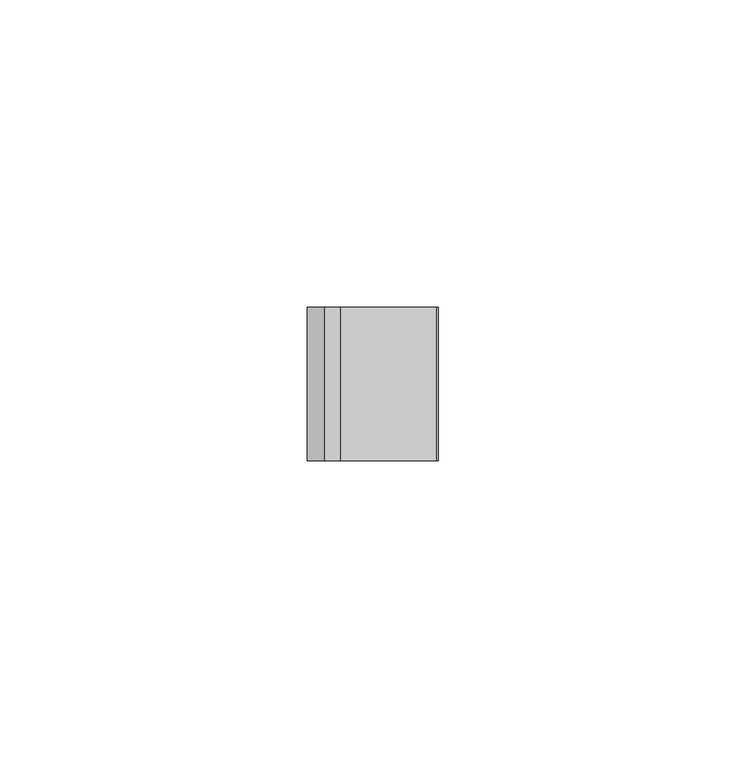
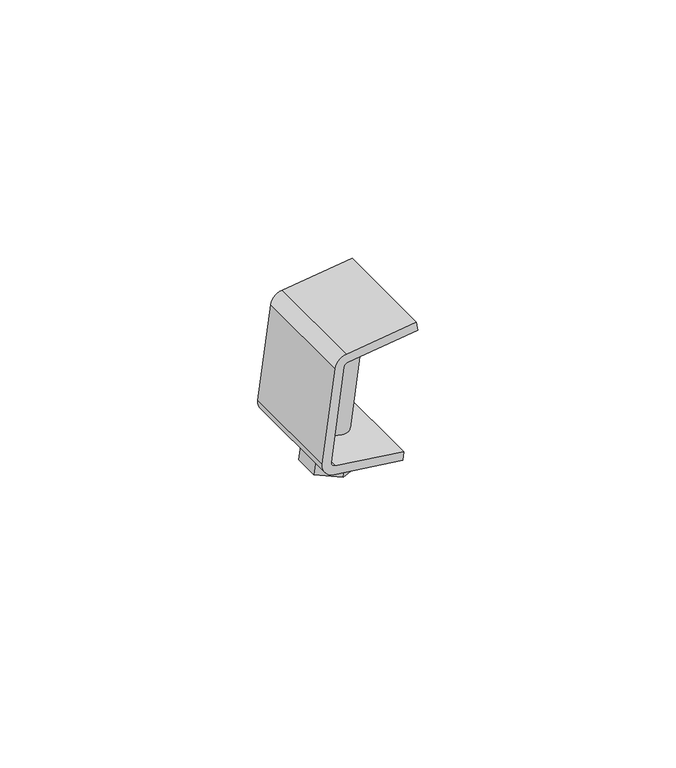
"""IFC4 building model written with IfcOpenShell, lengths in millimetres: proxy geometry, Cable_Ladder_CoverRetainer_PT2AI_Basortrav : Basortrav PT2AI."""

from ifc_helpers import new_model, si_unit, point, frame, frame_2d, origin, place, context, project, spatial, polyline, circle_curve, trimmed, segment, composite_curve, outline, extrude, source, transform, mapped, element, save


def generic_models_0f8e1dab(model_context):
    return source(origin(), model_context, "Body", "SweptSolid", [
        extrude(outline(composite_curve([segment(trimmed(circle_curve(frame_2d((-22.4736268, -1.9500801)), 1.0), [point((-23.4650717, -2.0806063))], [point((-22.3431007, -2.941525))], True, "CARTESIAN"), True, "CONTINUOUS"), segment(polyline([(-22.3431007, -2.941525), (-0.7607624, -0.1001563)]), True, "CONTINUOUS"), segment(trimmed(circle_curve(frame_2d((-0.8912886, 0.8912886)), 1.0), [point((-0.7607624, -0.1001563))], [point((0.1001563, 0.7607624))], True, "CARTESIAN"), True, "CONTINUOUS"), segment(polyline([(0.1001563, 0.7607624), (2.1597071, 16.4046039), (4.1425968, 16.1435515), (2.083046, 0.49971)]), True, "CONTINUOUS"), segment(trimmed(circle_curve(frame_2d((-0.8912886, 0.8912886)), 3.0), [point((2.083046, 0.49971))], [point((-0.49971, -2.083046))], False, "CARTESIAN"), True, "CONTINUOUS"), segment(polyline([(-0.49971, -2.083046), (-22.0820483, -4.9244147)]), True, "CONTINUOUS"), segment(trimmed(circle_curve(frame_2d((-22.4736268, -1.9500801)), 3.0), [point((-22.0820483, -4.9244147))], [point((-25.4479614, -2.3416587))], False, "CARTESIAN"), True, "CONTINUOUS"), segment(polyline([(-25.4479614, -2.3416587), (-27.4711174, 13.0257366), (-25.4882277, 13.286789), (-23.4650717, -2.0806063)]), True, "CONTINUOUS")], self_intersect=False)), frame((0.0, -25.0, 0.0), z_axis=(0.0, 1.0, 0.0), x_axis=(0.0, 0.0, 1.0)), (0.0, 0.0, 1.0), 25.0),
        extrude(outline(polyline([(0.0, 0.0), (2.8867514, -5.0000001), (1e-07, -10.0), (-5.7735027, -10.0), (-8.660254, -5.0), (-5.7735027, -1e-07), (0.0, 0.0)])), frame((3.6740137, -18.2735027, -32.2917135), z_axis=(0.13052619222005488, 0.0, 0.9914448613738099), x_axis=(-0.858616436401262, -0.4999999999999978, 0.11303899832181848)), (0.0, 0.0, 1.0), 4.0),
        extrude(outline(composite_curve([segment(trimmed(circle_curve(frame_2d((0.0, -3.25)), 3.25), [point((0.0, -6.5))], [point((0.0, 0.0))], False, "CARTESIAN"), True, "CONTINUOUS"), segment(trimmed(circle_curve(frame_2d((0.0, -3.25)), 3.25), [point((0.0, 0.0))], [point((0.0, -6.5))], False, "CARTESIAN"), True, "CONTINUOUS")], self_intersect=False)), frame((7.4183142, -12.5, -28.7501442), z_axis=(0.13052619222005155, 0.0, 0.9914448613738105), x_axis=(0.0, -1.0, 0.0)), (0.0, 0.0, 1.0), 25.0),
    ])


if __name__ == "__main__":
    model = new_model("IFC4")
    model_context = context("Model", 3, world=origin())
    ifc_project = project(units=[si_unit("LENGTHUNIT", "METRE", prefix="MILLI")], contexts=[model_context])
    site = spatial("IfcSite", under=ifc_project)
    building = spatial("IfcBuilding", under=site)
    placement = place(None, origin())
    generic_models_shape = generic_models_0f8e1dab(model_context)
    element("IfcBuildingElementProxy", 1, Name="Cable_Ladder_CoverRetainer_PT2AI_Basortrav : Basortrav PT2AI", ObjectType="Cable_Ladder_CoverRetainer_PT2AI_Basortrav : Basortrav PT2AI", at=placement, inside=building, context=model_context, shape_type="MappedRepresentation", body=[
        mapped(generic_models_shape, transform((0.0, 0.0, 0.0), x_axis=(1.0, 0.0, 0.0), y_axis=(0.0, 1.0, 0.0), z_axis=(0.0, 0.0, 1.0))),
    ])
    save(model, "model.ifc")
